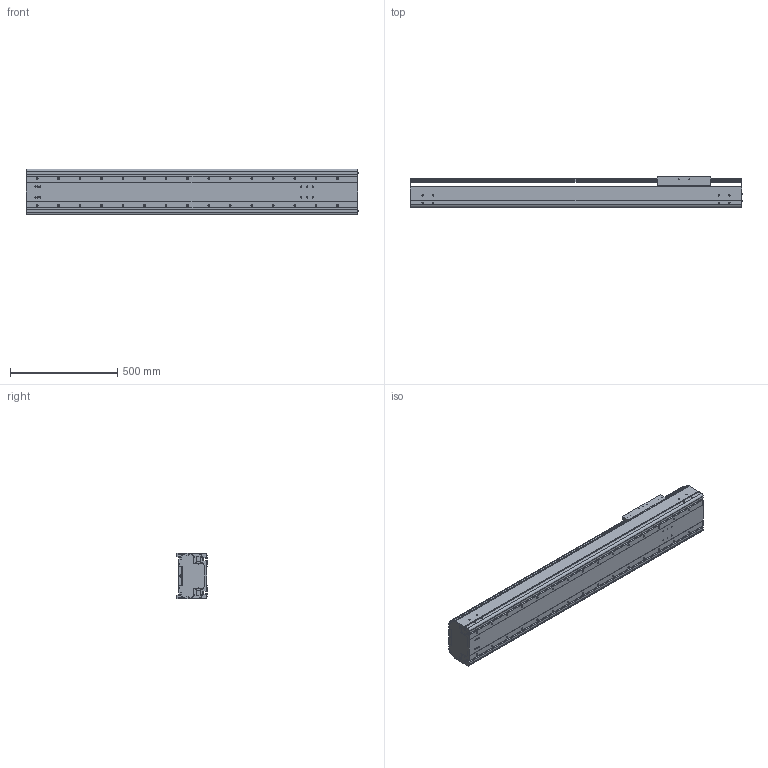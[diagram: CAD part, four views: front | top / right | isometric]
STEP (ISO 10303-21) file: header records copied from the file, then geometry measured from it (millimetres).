
FILE_DESCRIPTION((''),'2;1');
FILE_NAME('BE60G-ST-M_B-B0_IGS_PRT','2017-06-18T',(' '),(''),'PRO/ENGINEER BY PARAMETRIC TECHNOLOGY CORPORATION, 2015030','PRO/ENGINEER BY PARAMETRIC TECHNOLOGY CORPORATION, 2015030','');
FILE_SCHEMA(('CONFIG_CONTROL_DESIGN'));
Length unit declared in the file: millimetre
Products named in the file (1): BE60G-ST-M_B-B0_IGS_PRT
Bounding box: 1547.4 x 140 x 214 mm (x, y, z)
Volume: 12282021.9 mm3; surface area: 3277503.3 mm2
Topology: 2 solids, 148 shells, 1602 faces, 4480 edges, 2943 vertices
Faces by surface type: cylinder 824, plane 618, cone 112, sphere 24, torus 24
Entity records: 53558 total; most frequent: CARTESIAN_POINT 12172, DIRECTION 8690, ORIENTED_EDGE 8164, EDGE_CURVE 4370, AXIS2_PLACEMENT_3D 3241, VERTEX_POINT 2942, VECTOR 2208, LINE 2208
